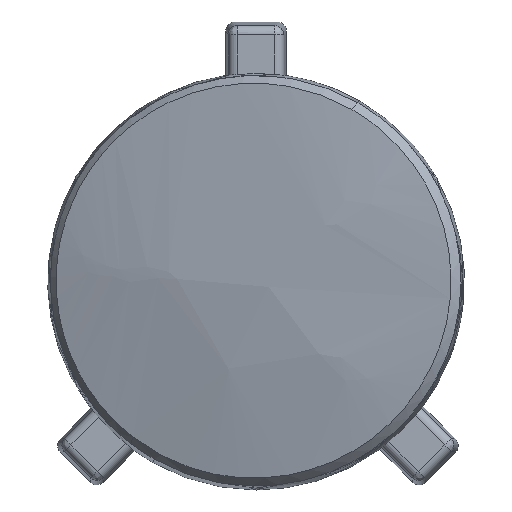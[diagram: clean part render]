
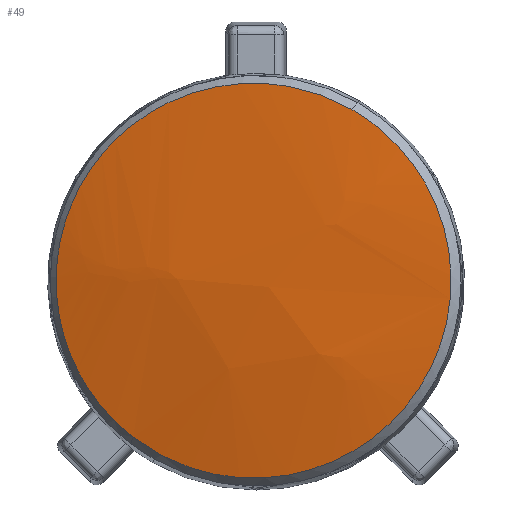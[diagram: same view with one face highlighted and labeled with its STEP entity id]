
A CAD part, top view. The second image highlights one B-rep face of the part: STEP entity #49.
In plain terms, the highlighted free-form (B-spline) face has degree [2, 2] with [5, 9] control points.
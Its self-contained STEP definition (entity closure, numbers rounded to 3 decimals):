
#49=ADVANCED_FACE('',(#116),#1003,.T.);
#116=FACE_OUTER_BOUND('',#185,.T.);
#185=EDGE_LOOP('',(#393,#394));
#393=ORIENTED_EDGE('',*,*,#641,.T.);
#394=ORIENTED_EDGE('',*,*,#719,.T.);
#641=EDGE_CURVE('',#943,#990,#779,.T.);
#719=EDGE_CURVE('',#990,#943,#822,.T.);
#779=B_SPLINE_CURVE_WITH_KNOTS('',3,(#2262,#2263,#2264,#2265,#2266,#2267,
#2268,#2269,#2270,#2271,#2272,#2273,#2274),.UNSPECIFIED.,.F.,.F.,(4,1,1,
1,1,1,1,1,1,1,4),(0.062,2.373,3.529,
4.684,6.688,8.692,10.696,12.7,
15.05,17.401,19.752),.UNSPECIFIED.);
#822=B_SPLINE_CURVE_WITH_KNOTS('',3,(#2687,#2688,#2689,#2690,#2691,#2692,
#2693,#2694,#2695,#2696,#2697,#2698),.UNSPECIFIED.,.F.,.F.,(4,1,1,1,1,1,
1,1,1,4),(19.752,22.102,24.522,26.942,
29.362,31.782,34.137,36.491,38.845,
41.199),.UNSPECIFIED.);
#943=VERTEX_POINT('',#1718);
#990=VERTEX_POINT('',#1765);
#1003=(
BOUNDED_SURFACE()
B_SPLINE_SURFACE(2,2,((#1537,#1538,#1539,#1540,#1541,#1542,#1543,#1544,
#1545),(#1546,#1547,#1548,#1549,#1550,#1551,#1552,#1553,#1554),(#1555,#1556,
#1557,#1558,#1559,#1560,#1561,#1562,#1563),(#1564,#1565,#1566,#1567,#1568,
#1569,#1570,#1571,#1572),(#1573,#1574,#1575,#1576,#1577,#1578,#1579,#1580,
#1581)),.UNSPECIFIED.,.F.,.F.,.F.)
B_SPLINE_SURFACE_WITH_KNOTS((3,2,3),(3,2,2,2,3),(-70.439,0.,70.439),
(0.,70.439,140.877,211.316,281.754),
 .UNSPECIFIED.)
GEOMETRIC_REPRESENTATION_ITEM()
RATIONAL_B_SPLINE_SURFACE(((1.,0.707,1.,0.707,1.,
0.707,1.,0.707,1.),(0.707,0.5,0.707,
0.5,0.707,0.5,0.707,0.5,0.707),(1.,
0.707,1.,0.707,1.,0.707,1.,0.707,
1.),(0.707,0.5,0.707,0.5,0.707,0.5,
0.707,0.5,0.707),(1.,0.707,1.,0.707,
1.,0.707,1.,0.707,1.)))
REPRESENTATION_ITEM('')
SURFACE()
);
#1537=CARTESIAN_POINT('',(-33.327,31.245,-16.941));
#1538=CARTESIAN_POINT('',(-33.327,31.245,-16.941));
#1539=CARTESIAN_POINT('',(-33.327,31.245,-16.941));
#1540=CARTESIAN_POINT('',(-33.327,31.245,-16.941));
#1541=CARTESIAN_POINT('',(-33.327,31.245,-16.941));
#1542=CARTESIAN_POINT('',(-33.327,31.245,-16.941));
#1543=CARTESIAN_POINT('',(-33.327,31.245,-16.941));
#1544=CARTESIAN_POINT('',(-33.327,31.245,-16.941));
#1545=CARTESIAN_POINT('',(-33.327,31.245,-16.941));
#1546=CARTESIAN_POINT('',(11.516,31.245,-16.941));
#1547=CARTESIAN_POINT('',(11.516,76.087,-16.941));
#1548=CARTESIAN_POINT('',(-33.327,76.087,-16.941));
#1549=CARTESIAN_POINT('',(-78.169,76.087,-16.941));
#1550=CARTESIAN_POINT('',(-78.169,31.245,-16.941));
#1551=CARTESIAN_POINT('',(-78.169,-13.598,-16.941));
#1552=CARTESIAN_POINT('',(-33.327,-13.598,-16.941));
#1553=CARTESIAN_POINT('',(11.516,-13.598,-16.941));
#1554=CARTESIAN_POINT('',(11.516,31.245,-16.941));
#1555=CARTESIAN_POINT('',(11.516,31.245,-61.783));
#1556=CARTESIAN_POINT('',(11.516,76.087,-61.783));
#1557=CARTESIAN_POINT('',(-33.327,76.087,-61.783));
#1558=CARTESIAN_POINT('',(-78.169,76.087,-61.783));
#1559=CARTESIAN_POINT('',(-78.169,31.245,-61.783));
#1560=CARTESIAN_POINT('',(-78.169,-13.598,-61.783));
#1561=CARTESIAN_POINT('',(-33.327,-13.598,-61.783));
#1562=CARTESIAN_POINT('',(11.516,-13.598,-61.783));
#1563=CARTESIAN_POINT('',(11.516,31.245,-61.783));
#1564=CARTESIAN_POINT('',(11.516,31.245,-106.626));
#1565=CARTESIAN_POINT('',(11.516,76.087,-106.626));
#1566=CARTESIAN_POINT('',(-33.327,76.087,-106.626));
#1567=CARTESIAN_POINT('',(-78.169,76.087,-106.626));
#1568=CARTESIAN_POINT('',(-78.169,31.245,-106.626));
#1569=CARTESIAN_POINT('',(-78.169,-13.598,-106.626));
#1570=CARTESIAN_POINT('',(-33.327,-13.598,-106.626));
#1571=CARTESIAN_POINT('',(11.516,-13.598,-106.626));
#1572=CARTESIAN_POINT('',(11.516,31.245,-106.626));
#1573=CARTESIAN_POINT('',(-33.327,31.245,-106.626));
#1574=CARTESIAN_POINT('',(-33.327,31.245,-106.626));
#1575=CARTESIAN_POINT('',(-33.327,31.245,-106.626));
#1576=CARTESIAN_POINT('',(-33.327,31.245,-106.626));
#1577=CARTESIAN_POINT('',(-33.327,31.245,-106.626));
#1578=CARTESIAN_POINT('',(-33.327,31.245,-106.626));
#1579=CARTESIAN_POINT('',(-33.327,31.245,-106.626));
#1580=CARTESIAN_POINT('',(-33.327,31.245,-106.626));
#1581=CARTESIAN_POINT('',(-33.327,31.245,-106.626));
#1718=CARTESIAN_POINT('',(-40.777,37.647,-18.03));
#1765=CARTESIAN_POINT('',(-47.969,26.873,-19.625));
#2262=CARTESIAN_POINT('',(-40.777,37.647,-18.03));
#2263=CARTESIAN_POINT('',(-41.434,38.025,-18.197));
#2264=CARTESIAN_POINT('',(-42.514,38.414,-18.469));
#2265=CARTESIAN_POINT('',(-44.019,38.542,-18.845));
#2266=CARTESIAN_POINT('',(-45.424,38.419,-19.193));
#2267=CARTESIAN_POINT('',(-47.041,37.873,-19.59));
#2268=CARTESIAN_POINT('',(-48.66,36.695,-19.981));
#2269=CARTESIAN_POINT('',(-49.861,35.066,-20.259));
#2270=CARTESIAN_POINT('',(-50.551,33.023,-20.399));
#2271=CARTESIAN_POINT('',(-50.523,30.733,-20.349));
#2272=CARTESIAN_POINT('',(-49.641,28.509,-20.081));
#2273=CARTESIAN_POINT('',(-48.581,27.343,-19.788));
#2274=CARTESIAN_POINT('',(-47.969,26.873,-19.625));
#2687=CARTESIAN_POINT('',(-47.969,26.873,-19.625));
#2688=CARTESIAN_POINT('',(-47.358,26.402,-19.461));
#2689=CARTESIAN_POINT('',(-45.952,25.676,-19.093));
#2690=CARTESIAN_POINT('',(-43.59,25.395,-18.501));
#2691=CARTESIAN_POINT('',(-41.252,25.98,-17.939));
#2692=CARTESIAN_POINT('',(-39.258,27.378,-17.48));
#2693=CARTESIAN_POINT('',(-37.904,29.409,-17.191));
#2694=CARTESIAN_POINT('',(-37.377,31.784,-17.106));
#2695=CARTESIAN_POINT('',(-37.732,34.167,-17.232));
#2696=CARTESIAN_POINT('',(-38.902,36.25,-17.549));
#2697=CARTESIAN_POINT('',(-40.108,37.263,-17.86));
#2698=CARTESIAN_POINT('',(-40.777,37.647,-18.03));
